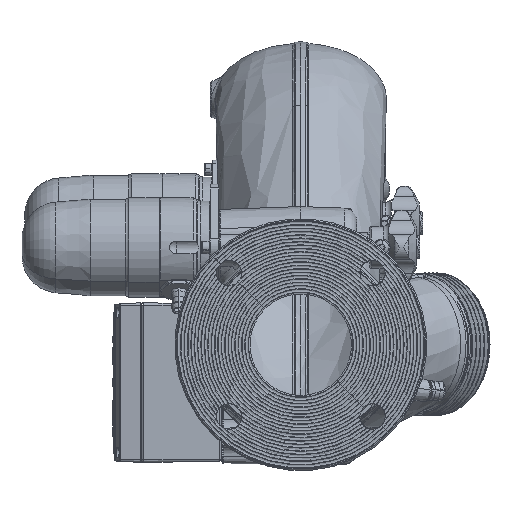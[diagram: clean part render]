
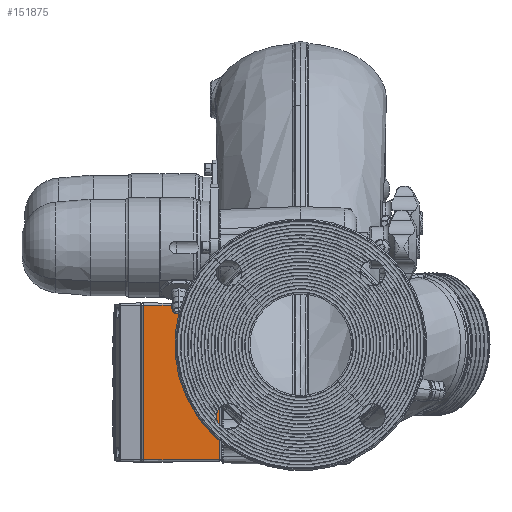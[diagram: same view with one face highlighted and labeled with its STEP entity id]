
A CAD part, front view. The second image highlights one B-rep face of the part: STEP entity #151875.
In plain terms, the highlighted planar face has unit normal (0.014, -1, 0).
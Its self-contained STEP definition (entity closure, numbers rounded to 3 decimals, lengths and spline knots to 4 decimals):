
#11156 = VECTOR ( 'NONE', #161962, 39.3701 ) ;
#19293 = ORIENTED_EDGE ( 'NONE', *, *, #156610, .F. ) ;
#23228 = CARTESIAN_POINT ( 'NONE',  ( -4.7122, 1.4067, -3.3999 ) ) ;
#26454 = VERTEX_POINT ( 'NONE', #110538 ) ;
#31883 = EDGE_CURVE ( 'NONE', #26454, #196238, #160380, .T. ) ;
#37348 = VECTOR ( 'NONE', #56589, 39.3701 ) ;
#42233 = AXIS2_PLACEMENT_3D ( 'NONE', #88509, #194219, #133501 ) ;
#42320 = PLANE ( 'NONE',  #42233 ) ;
#42447 = FACE_OUTER_BOUND ( 'NONE', #179176, .T. ) ;
#43516 = VECTOR ( 'NONE', #179579, 39.3701 ) ;
#50028 = EDGE_CURVE ( 'NONE', #97336, #88565, #121432, .T. ) ;
#56589 = DIRECTION ( 'NONE',  ( 0., 0., 1. ) ) ;
#65234 = EDGE_CURVE ( 'NONE', #196238, #97336, #188272, .T. ) ;
#75780 = CARTESIAN_POINT ( 'NONE',  ( -4.6412, 1.4077, -3.3999 ) ) ;
#88247 = CARTESIAN_POINT ( 'NONE',  ( -2.3954, 1.439, 1.1601 ) ) ;
#88509 = CARTESIAN_POINT ( 'NONE',  ( -4.7122, 1.4067, -3.3999 ) ) ;
#88565 = VERTEX_POINT ( 'NONE', #192089 ) ;
#97336 = VERTEX_POINT ( 'NONE', #194785 ) ;
#100578 = CARTESIAN_POINT ( 'NONE',  ( -4.7122, 1.4067, 1.1601 ) ) ;
#110538 = CARTESIAN_POINT ( 'NONE',  ( -2.3954, 1.439, -3.3999 ) ) ;
#121432 = LINE ( 'NONE', #75780, #43516 ) ;
#122887 = ORIENTED_EDGE ( 'NONE', *, *, #65234, .T. ) ;
#131824 = LINE ( 'NONE', #23228, #11156 ) ;
#133501 = DIRECTION ( 'NONE',  ( 1., 0.014, 0. ) ) ;
#148928 = ORIENTED_EDGE ( 'NONE', *, *, #31883, .T. ) ;
#151875 = ADVANCED_FACE ( 'NONE', ( #42447 ), #42320, .T. ) ;
#154605 = CARTESIAN_POINT ( 'NONE',  ( -2.3954, 1.439, 1.1601 ) ) ;
#156610 = EDGE_CURVE ( 'NONE', #26454, #88565, #131824, .T. ) ;
#160380 = LINE ( 'NONE', #88247, #37348 ) ;
#161962 = DIRECTION ( 'NONE',  ( -1., -0.014, 0. ) ) ;
#178814 = VECTOR ( 'NONE', #192396, 39.3701 ) ;
#179176 = EDGE_LOOP ( 'NONE', ( #19293, #148928, #122887, #191120 ) ) ;
#179579 = DIRECTION ( 'NONE',  ( 0., 0., -1. ) ) ;
#188272 = LINE ( 'NONE', #100578, #178814 ) ;
#191120 = ORIENTED_EDGE ( 'NONE', *, *, #50028, .T. ) ;
#192089 = CARTESIAN_POINT ( 'NONE',  ( -4.6412, 1.4077, -3.3999 ) ) ;
#192396 = DIRECTION ( 'NONE',  ( -1., -0.014, 0. ) ) ;
#194219 = DIRECTION ( 'NONE',  ( 0.014, -1., 0. ) ) ;
#194785 = CARTESIAN_POINT ( 'NONE',  ( -4.6412, 1.4077, 1.1601 ) ) ;
#196238 = VERTEX_POINT ( 'NONE', #154605 ) ;
